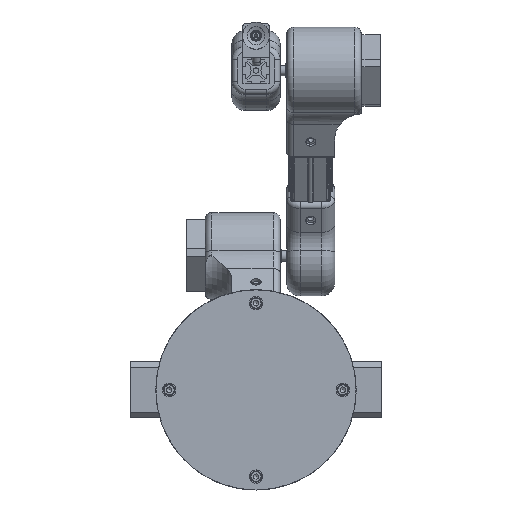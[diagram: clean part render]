
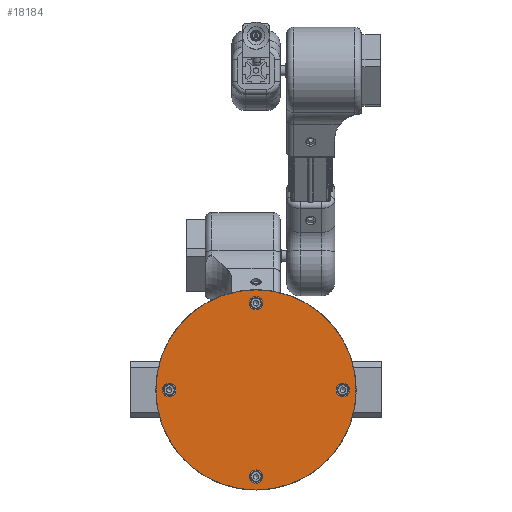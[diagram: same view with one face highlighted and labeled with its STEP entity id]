
A CAD part, front view. The second image highlights one B-rep face of the part: STEP entity #18184.
In plain terms, the highlighted planar face has unit normal (0, -1, 0) as drawn and (0, 1, 0) by its records, which use the part's own axes.
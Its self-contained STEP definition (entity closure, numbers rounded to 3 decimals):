
#4277=FACE_BOUND('',#6526,.T.);
#4278=FACE_BOUND('',#6527,.T.);
#4279=FACE_BOUND('',#6528,.T.);
#4280=FACE_BOUND('',#6529,.T.);
#4554=CIRCLE('',#19656,5.);
#4558=CIRCLE('',#19663,5.);
#4562=CIRCLE('',#19670,5.);
#4566=CIRCLE('',#19677,5.);
#4568=CIRCLE('',#19681,75.);
#5643=FACE_OUTER_BOUND('',#6525,.T.);
#6525=EDGE_LOOP('',(#13631));
#6526=EDGE_LOOP('',(#13632));
#6527=EDGE_LOOP('',(#13633));
#6528=EDGE_LOOP('',(#13634));
#6529=EDGE_LOOP('',(#13635));
#9814=VERTEX_POINT('',#27990);
#9818=VERTEX_POINT('',#28003);
#9822=VERTEX_POINT('',#28016);
#9826=VERTEX_POINT('',#28029);
#9828=VERTEX_POINT('',#28037);
#11320=EDGE_CURVE('',#9814,#9814,#4554,.T.);
#11326=EDGE_CURVE('',#9818,#9818,#4558,.T.);
#11332=EDGE_CURVE('',#9822,#9822,#4562,.T.);
#11338=EDGE_CURVE('',#9826,#9826,#4566,.T.);
#11342=EDGE_CURVE('',#9828,#9828,#4568,.T.);
#13631=ORIENTED_EDGE('',*,*,#11342,.T.);
#13632=ORIENTED_EDGE('',*,*,#11320,.T.);
#13633=ORIENTED_EDGE('',*,*,#11326,.T.);
#13634=ORIENTED_EDGE('',*,*,#11332,.T.);
#13635=ORIENTED_EDGE('',*,*,#11338,.T.);
#17712=PLANE('',#19683);
#18184=ADVANCED_FACE('',(#5643,#4277,#4278,#4279,#4280),#17712,.T.);
#19656=AXIS2_PLACEMENT_3D('',#27991,#22184,#22185);
#19663=AXIS2_PLACEMENT_3D('',#28004,#22200,#22201);
#19670=AXIS2_PLACEMENT_3D('',#28017,#22216,#22217);
#19677=AXIS2_PLACEMENT_3D('',#28030,#22232,#22233);
#19681=AXIS2_PLACEMENT_3D('',#28038,#22242,#22243);
#19683=AXIS2_PLACEMENT_3D('',#28042,#22247,#22248);
#22184=DIRECTION('center_axis',(0.,-1.,0.));
#22185=DIRECTION('ref_axis',(0.,0.,1.));
#22200=DIRECTION('center_axis',(0.,-1.,0.));
#22201=DIRECTION('ref_axis',(-1.,0.,0.));
#22216=DIRECTION('center_axis',(0.,-1.,0.));
#22217=DIRECTION('ref_axis',(0.,0.,-1.));
#22232=DIRECTION('center_axis',(0.,-1.,0.));
#22233=DIRECTION('ref_axis',(1.,0.,0.));
#22242=DIRECTION('center_axis',(0.,1.,0.));
#22243=DIRECTION('ref_axis',(-1.,0.,0.));
#22247=DIRECTION('center_axis',(0.,1.,0.));
#22248=DIRECTION('ref_axis',(0.,0.,1.));
#27990=CARTESIAN_POINT('',(0.,40.,60.));
#27991=CARTESIAN_POINT('Origin',(0.,40.,65.));
#28003=CARTESIAN_POINT('',(-60.,40.,0.));
#28004=CARTESIAN_POINT('Origin',(-65.,40.,0.));
#28016=CARTESIAN_POINT('',(0.,40.,-60.));
#28017=CARTESIAN_POINT('Origin',(0.,40.,-65.));
#28029=CARTESIAN_POINT('',(60.,40.,0.));
#28030=CARTESIAN_POINT('Origin',(65.,40.,0.));
#28037=CARTESIAN_POINT('',(75.,40.,0.));
#28038=CARTESIAN_POINT('Origin',(0.,40.,0.));
#28042=CARTESIAN_POINT('Origin',(0.,40.,0.));
